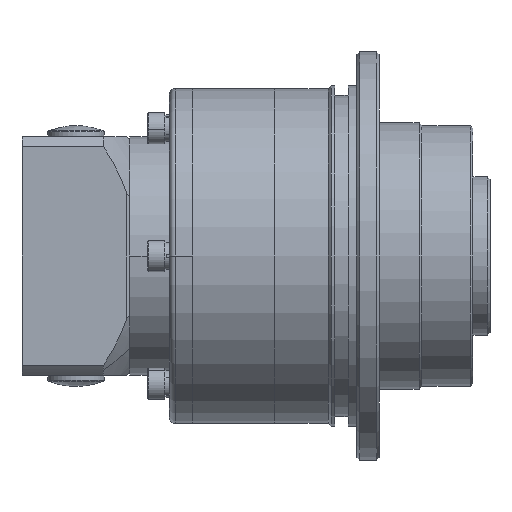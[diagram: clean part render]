
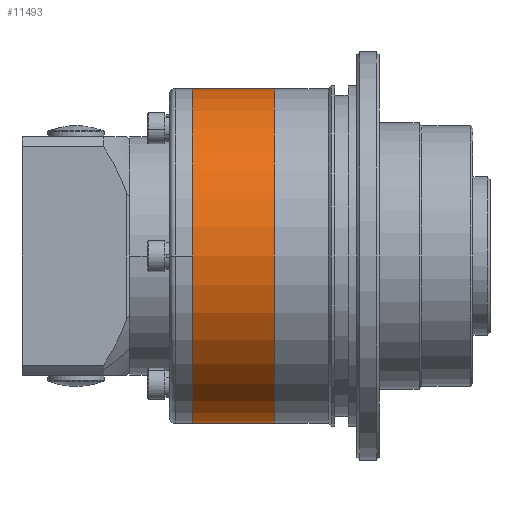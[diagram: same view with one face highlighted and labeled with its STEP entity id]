
A CAD part, front view. The second image highlights one B-rep face of the part: STEP entity #11493.
In plain terms, the highlighted cylindrical face has radius 29.5 mm (diameter 59 mm), a partial arc.
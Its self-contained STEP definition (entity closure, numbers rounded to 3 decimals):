
#308 = CARTESIAN_POINT ( 'NONE',  ( -14.5, 0., 29.5 ) ) ;
#1357 = EDGE_CURVE ( 'NONE', #25319, #22140, #7491, .T. ) ;
#1511 = CIRCLE ( 'NONE', #10330, 29.5 ) ;
#2254 = DIRECTION ( 'NONE',  ( -1., 0., 0. ) ) ;
#2786 = CARTESIAN_POINT ( 'NONE',  ( -14.5, 0., 0. ) ) ;
#4735 = ORIENTED_EDGE ( 'NONE', *, *, #24922, .T. ) ;
#4993 = DIRECTION ( 'NONE',  ( 0., 0., 1. ) ) ;
#7142 = DIRECTION ( 'NONE',  ( 0., 0., 1. ) ) ;
#7491 = LINE ( 'NONE', #27669, #25637 ) ;
#8499 = CARTESIAN_POINT ( 'NONE',  ( -14.5, 0., -29.5 ) ) ;
#8994 = CARTESIAN_POINT ( 'NONE',  ( -14.5, 0., 29.5 ) ) ;
#10330 = AXIS2_PLACEMENT_3D ( 'NONE', #15382, #2254, #17593 ) ;
#10377 = CARTESIAN_POINT ( 'NONE',  ( 0., 0., -29.5 ) ) ;
#11362 = ORIENTED_EDGE ( 'NONE', *, *, #13033, .T. ) ;
#11493 = ADVANCED_FACE ( 'NONE', ( #13665 ), #18146, .T. ) ;
#11511 = VECTOR ( 'NONE', #15645, 1000. ) ;
#12465 = DIRECTION ( 'NONE',  ( -1., 0., 0. ) ) ;
#13033 = EDGE_CURVE ( 'NONE', #15454, #21695, #23830, .T. ) ;
#13034 = CIRCLE ( 'NONE', #28289, 29.5 ) ;
#13665 = FACE_OUTER_BOUND ( 'NONE', #21683, .T. ) ;
#13772 = EDGE_CURVE ( 'NONE', #22140, #21695, #13034, .T. ) ;
#15219 = ORIENTED_EDGE ( 'NONE', *, *, #1357, .F. ) ;
#15382 = CARTESIAN_POINT ( 'NONE',  ( 0., 0., 0. ) ) ;
#15454 = VERTEX_POINT ( 'NONE', #15959 ) ;
#15645 = DIRECTION ( 'NONE',  ( -1., 0., 0. ) ) ;
#15684 = ORIENTED_EDGE ( 'NONE', *, *, #13772, .F. ) ;
#15859 = DIRECTION ( 'NONE',  ( -1., 0., 0. ) ) ;
#15959 = CARTESIAN_POINT ( 'NONE',  ( 0., 0., 29.5 ) ) ;
#17593 = DIRECTION ( 'NONE',  ( 0., 0., 1. ) ) ;
#18119 = DIRECTION ( 'NONE',  ( -1., 0., 0. ) ) ;
#18146 = CYLINDRICAL_SURFACE ( 'NONE', #25254, 29.5 ) ;
#20266 = CARTESIAN_POINT ( 'NONE',  ( -14.5, 0., 0. ) ) ;
#21683 = EDGE_LOOP ( 'NONE', ( #15219, #4735, #11362, #15684 ) ) ;
#21695 = VERTEX_POINT ( 'NONE', #8994 ) ;
#22140 = VERTEX_POINT ( 'NONE', #8499 ) ;
#23830 = LINE ( 'NONE', #308, #11511 ) ;
#24922 = EDGE_CURVE ( 'NONE', #25319, #15454, #1511, .T. ) ;
#25254 = AXIS2_PLACEMENT_3D ( 'NONE', #20266, #15859, #7142 ) ;
#25319 = VERTEX_POINT ( 'NONE', #10377 ) ;
#25637 = VECTOR ( 'NONE', #12465, 1000. ) ;
#27669 = CARTESIAN_POINT ( 'NONE',  ( -14.5, 0., -29.5 ) ) ;
#28289 = AXIS2_PLACEMENT_3D ( 'NONE', #2786, #18119, #4993 ) ;
